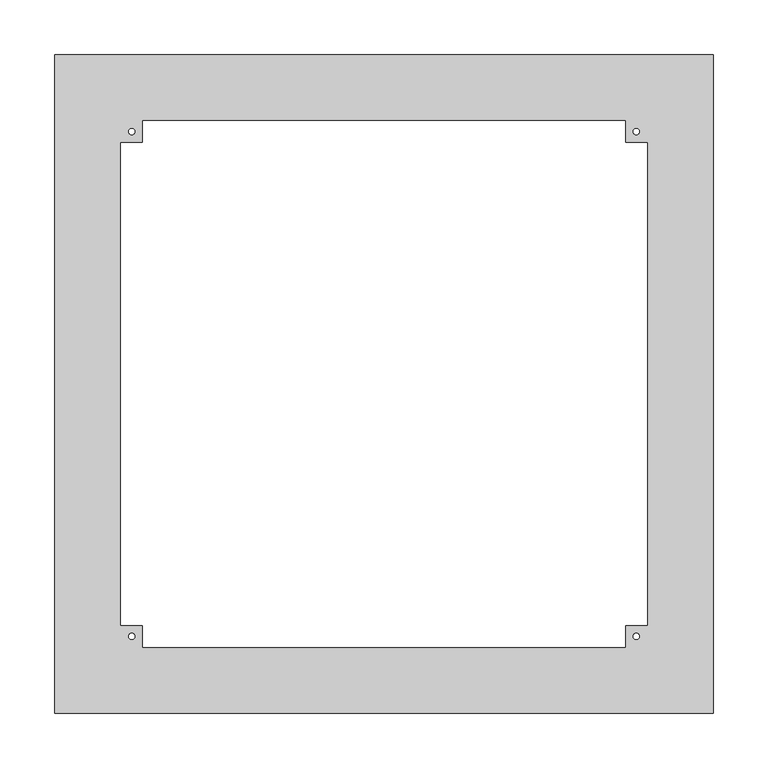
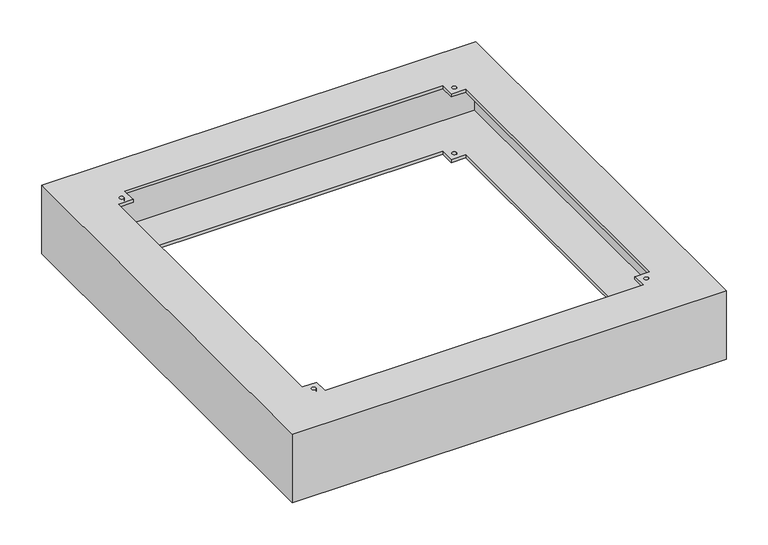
"""IFC4 building model written with IfcOpenShell, lengths in millimetres: furniture geometry, НВО_КНС_Сейсмоцоколь_DKC : Сейсмоцоколь 600x600x100мм."""

from ifc_helpers import new_model, si_unit, frame, origin, place, context, project, spatial, polyline, circle_curve, source, transform, mapped, element, save
from ifc_brep_helpers import plane_surface, revolved_surface, advanced_brep


def furniture_9b10bd77(model_context):
    return source(origin(), model_context, "Body", "AdvancedBrep", [
        advanced_brep(
        [(300.0, 300.0, 100.0), (-300.0, 300.0, 100.0), (-300.0, -300.0, 100.0), (300.0, -300.0, 100.0), (220.0, 240.0, 100.0), (220.0, 220.0, 100.0), (240.0, 220.0, 100.0), (240.0, -220.0, 100.0), (220.0, -220.0, 100.0), (220.0, -240.0, 100.0), (-220.0, -240.0, 100.0), (-220.0, -220.0, 100.0), (-240.0, -220.0, 100.0), (-240.0, 220.0, 100.0), (-220.0, 220.0, 100.0), (-220.0, 240.0, 100.0), (-232.8696247, 230.0, 100.0), (-227.1303753, 230.0, 100.0), (227.1303753, 230.0, 100.0), (232.8696247, 230.0, 100.0), (-232.8696247, -230.0, 100.0), (-227.1303753, -230.0, 100.0), (227.1303753, -230.0, 100.0), (232.8696247, -230.0, 100.0), (300.0, 300.0, 0.0), (300.0, -300.0, 0.0), (-300.0, -300.0, 0.0), (-300.0, 300.0, 0.0), (220.0, 240.0, 0.0), (-220.0, 240.0, 0.0), (-220.0, 220.0, 0.0), (-240.0, 220.0, 0.0), (-240.0, -220.0, 0.0), (-220.0, -220.0, 0.0), (-220.0, -240.0, 0.0), (220.0, -240.0, 0.0), (220.0, -220.0, 0.0), (240.0, -220.0, 0.0), (240.0, 220.0, 0.0), (220.0, 220.0, 0.0), (-232.8696247, 230.0, 0.0), (-227.1303753, 230.0, 0.0), (227.1303753, 230.0, 0.0), (232.8696247, 230.0, 0.0), (-232.8696247, -230.0, 0.0), (-227.1303753, -230.0, 0.0), (227.1303753, -230.0, 0.0), (232.8696247, -230.0, 0.0), (220.0, 240.0, 96.0), (220.0, 220.0, 96.0), (220.0, 220.0, 4.0), (220.0, 240.0, 4.0), (240.0, 220.0, 96.0), (240.0, 220.0, 4.0), (240.0, -220.0, 96.0), (240.0, -220.0, 4.0), (220.0, -220.0, 96.0), (220.0, -220.0, 4.0), (220.0, -240.0, 96.0), (220.0, -240.0, 4.0), (-220.0, -240.0, 96.0), (-220.0, -240.0, 4.0), (-220.0, -220.0, 96.0), (-220.0, -220.0, 4.0), (-240.0, -220.0, 96.0), (-240.0, -220.0, 4.0), (-240.0, 220.0, 96.0), (-240.0, 220.0, 4.0), (-220.0, 220.0, 96.0), (-220.0, 220.0, 4.0), (-220.0, 240.0, 96.0), (-220.0, 240.0, 4.0), (-232.8696247, 230.0, 96.0), (-227.1303753, 230.0, 96.0), (-227.1303753, 230.0, 4.0), (-232.8696247, 230.0, 4.0), (227.1303753, 230.0, 96.0), (232.8696247, 230.0, 96.0), (232.8696247, 230.0, 4.0), (227.1303753, 230.0, 4.0), (-232.8696247, -230.0, 96.0), (-227.1303753, -230.0, 96.0), (-227.1303753, -230.0, 4.0), (-232.8696247, -230.0, 4.0), (227.1303753, -230.0, 96.0), (232.8696247, -230.0, 96.0), (232.8696247, -230.0, 4.0), (227.1303753, -230.0, 4.0), (296.0, 296.0, 96.0), (296.0, -296.0, 96.0), (-296.0, -296.0, 96.0), (-296.0, 296.0, 96.0), (296.0, 296.0, 4.0), (-296.0, 296.0, 4.0), (-296.0, -296.0, 4.0), (296.0, -296.0, 4.0)],
        [
            (0, 1),
            (1, 2),
            (2, 3),
            (3, 0),
            (4, 5),
            (5, 6),
            (6, 7),
            (7, 8),
            (8, 9),
            (9, 10),
            (10, 11),
            (11, 12),
            (12, 13),
            (13, 14),
            (14, 15),
            (15, 4),
            (16, 17, circle_curve(frame((-230.0, 230.0, 100.0), z_axis=(0.0, 0.0, -1.0), x_axis=(1.0, 0.0, 0.0)), 2.8696247)),
            (17, 16, circle_curve(frame((-230.0, 230.0, 100.0), z_axis=(0.0, 0.0, -1.0), x_axis=(1.0, 0.0, 0.0)), 2.8696247)),
            (18, 19, circle_curve(frame((230.0, 230.0, 100.0), z_axis=(0.0, 0.0, -1.0), x_axis=(1.0, 0.0, 0.0)), 2.8696247)),
            (19, 18, circle_curve(frame((230.0, 230.0, 100.0), z_axis=(0.0, 0.0, -1.0), x_axis=(1.0, 0.0, 0.0)), 2.8696247)),
            (20, 21, circle_curve(frame((-230.0, -230.0, 100.0), z_axis=(0.0, 0.0, -1.0), x_axis=(1.0, 0.0, 0.0)), 2.8696247)),
            (21, 20, circle_curve(frame((-230.0, -230.0, 100.0), z_axis=(0.0, 0.0, -1.0), x_axis=(1.0, 0.0, 0.0)), 2.8696247)),
            (22, 23, circle_curve(frame((230.0, -230.0, 100.0), z_axis=(0.0, 0.0, -1.0), x_axis=(1.0, 0.0, 0.0)), 2.8696247)),
            (23, 22, circle_curve(frame((230.0, -230.0, 100.0), z_axis=(0.0, 0.0, -1.0), x_axis=(1.0, 0.0, 0.0)), 2.8696247)),
            (24, 25),
            (25, 26),
            (26, 27),
            (27, 24),
            (28, 29),
            (29, 30),
            (30, 31),
            (31, 32),
            (32, 33),
            (33, 34),
            (34, 35),
            (35, 36),
            (36, 37),
            (37, 38),
            (38, 39),
            (39, 28),
            (40, 41, circle_curve(frame((-230.0, 230.0, 0.0), z_axis=(0.0, 0.0, 1.0), x_axis=(1.0, 0.0, 0.0)), 2.8696247)),
            (41, 40, circle_curve(frame((-230.0, 230.0, 0.0), z_axis=(0.0, 0.0, 1.0), x_axis=(1.0, 0.0, 0.0)), 2.8696247)),
            (42, 43, circle_curve(frame((230.0, 230.0, 0.0), z_axis=(0.0, 0.0, 1.0), x_axis=(1.0, 0.0, 0.0)), 2.8696247)),
            (43, 42, circle_curve(frame((230.0, 230.0, 0.0), z_axis=(0.0, 0.0, 1.0), x_axis=(1.0, 0.0, 0.0)), 2.8696247)),
            (44, 45, circle_curve(frame((-230.0, -230.0, 0.0), z_axis=(0.0, 0.0, 1.0), x_axis=(1.0, 0.0, 0.0)), 2.8696247)),
            (45, 44, circle_curve(frame((-230.0, -230.0, 0.0), z_axis=(0.0, 0.0, 1.0), x_axis=(1.0, 0.0, 0.0)), 2.8696247)),
            (46, 47, circle_curve(frame((230.0, -230.0, 0.0), z_axis=(0.0, 0.0, 1.0), x_axis=(1.0, 0.0, 0.0)), 2.8696247)),
            (47, 46, circle_curve(frame((230.0, -230.0, 0.0), z_axis=(0.0, 0.0, 1.0), x_axis=(1.0, 0.0, 0.0)), 2.8696247)),
            (0, 24),
            (27, 1),
            (26, 2),
            (25, 3),
            (4, 48),
            (48, 49),
            (49, 5),
            (39, 50),
            (50, 51),
            (51, 28),
            (49, 52),
            (52, 6),
            (38, 53),
            (53, 50),
            (52, 54),
            (54, 7),
            (37, 55),
            (55, 53),
            (54, 56),
            (56, 8),
            (36, 57),
            (57, 55),
            (56, 58),
            (58, 9),
            (35, 59),
            (59, 57),
            (58, 60),
            (60, 10),
            (34, 61),
            (61, 59),
            (60, 62),
            (62, 11),
            (33, 63),
            (63, 61),
            (62, 64),
            (64, 12),
            (32, 65),
            (65, 63),
            (64, 66),
            (66, 13),
            (31, 67),
            (67, 65),
            (66, 68),
            (68, 14),
            (30, 69),
            (69, 67),
            (68, 70),
            (70, 15),
            (29, 71),
            (71, 69),
            (70, 48),
            (51, 71),
            (16, 72),
            (72, 73, circle_curve(frame((-230.0, 230.0, 96.0), z_axis=(0.0, 0.0, -1.0), x_axis=(1.0, 0.0, 0.0)), 2.8696247)),
            (73, 17),
            (41, 74),
            (74, 75, circle_curve(frame((-230.0, 230.0, 4.0), z_axis=(0.0, 0.0, 1.0), x_axis=(1.0, 0.0, 0.0)), 2.8696247)),
            (75, 40),
            (73, 72, circle_curve(frame((-230.0, 230.0, 96.0), z_axis=(0.0, 0.0, -1.0), x_axis=(1.0, 0.0, 0.0)), 2.8696247)),
            (75, 74, circle_curve(frame((-230.0, 230.0, 4.0), z_axis=(0.0, 0.0, 1.0), x_axis=(1.0, 0.0, 0.0)), 2.8696247)),
            (18, 76),
            (76, 77, circle_curve(frame((230.0, 230.0, 96.0), z_axis=(0.0, 0.0, -1.0), x_axis=(1.0, 0.0, 0.0)), 2.8696247)),
            (77, 19),
            (43, 78),
            (78, 79, circle_curve(frame((230.0, 230.0, 4.0), z_axis=(0.0, 0.0, 1.0), x_axis=(1.0, 0.0, 0.0)), 2.8696247)),
            (79, 42),
            (77, 76, circle_curve(frame((230.0, 230.0, 96.0), z_axis=(0.0, 0.0, -1.0), x_axis=(1.0, 0.0, 0.0)), 2.8696247)),
            (79, 78, circle_curve(frame((230.0, 230.0, 4.0), z_axis=(0.0, 0.0, 1.0), x_axis=(1.0, 0.0, 0.0)), 2.8696247)),
            (20, 80),
            (80, 81, circle_curve(frame((-230.0, -230.0, 96.0), z_axis=(0.0, 0.0, -1.0), x_axis=(1.0, 0.0, 0.0)), 2.8696247)),
            (81, 21),
            (45, 82),
            (82, 83, circle_curve(frame((-230.0, -230.0, 4.0), z_axis=(0.0, 0.0, 1.0), x_axis=(1.0, 0.0, 0.0)), 2.8696247)),
            (83, 44),
            (81, 80, circle_curve(frame((-230.0, -230.0, 96.0), z_axis=(0.0, 0.0, -1.0), x_axis=(1.0, 0.0, 0.0)), 2.8696247)),
            (83, 82, circle_curve(frame((-230.0, -230.0, 4.0), z_axis=(0.0, 0.0, 1.0), x_axis=(1.0, 0.0, 0.0)), 2.8696247)),
            (22, 84),
            (84, 85, circle_curve(frame((230.0, -230.0, 96.0), z_axis=(0.0, 0.0, -1.0), x_axis=(1.0, 0.0, 0.0)), 2.8696247)),
            (85, 23),
            (47, 86),
            (86, 87, circle_curve(frame((230.0, -230.0, 4.0), z_axis=(0.0, 0.0, 1.0), x_axis=(1.0, 0.0, 0.0)), 2.8696247)),
            (87, 46),
            (85, 84, circle_curve(frame((230.0, -230.0, 96.0), z_axis=(0.0, 0.0, -1.0), x_axis=(1.0, 0.0, 0.0)), 2.8696247)),
            (87, 86, circle_curve(frame((230.0, -230.0, 4.0), z_axis=(0.0, 0.0, 1.0), x_axis=(1.0, 0.0, 0.0)), 2.8696247)),
            (88, 89),
            (89, 90),
            (90, 91),
            (91, 88),
            (92, 93),
            (93, 94),
            (94, 95),
            (95, 92),
            (91, 93),
            (92, 88),
            (90, 94),
            (89, 95),
        ],
        [
            plane_surface(frame((-300.0, 300.0, 100.0), z_axis=(0.0, 0.0, 1.0), x_axis=(-1.0, 0.0, 0.0))),
            plane_surface(frame((-300.0, 300.0, 0.0), z_axis=(0.0, 0.0, -1.0), x_axis=(1.0, 0.0, 0.0))),
            plane_surface(frame((300.0, 300.0, 100.0), z_axis=(0.0, 1.0, 0.0), x_axis=(0.0, 0.0, -1.0))),
            plane_surface(frame((-300.0, 300.0, 100.0), z_axis=(-1.0, 0.0, 0.0), x_axis=(0.0, 0.0, -1.0))),
            plane_surface(frame((-300.0, -300.0, 100.0), z_axis=(0.0, -1.0, 0.0), x_axis=(0.0, 0.0, -1.0))),
            plane_surface(frame((300.0, -300.0, 100.0), z_axis=(1.0, 0.0, 0.0), x_axis=(0.0, 0.0, -1.0))),
            plane_surface(frame((220.0, 240.0, 100.0), z_axis=(-1.0, 0.0, 0.0), x_axis=(0.0, 0.0, -1.0))),
            plane_surface(frame((220.0, 220.0, 100.0), z_axis=(0.0, -1.0, 0.0), x_axis=(0.0, 0.0, -1.0))),
            plane_surface(frame((240.0, 220.0, 100.0), z_axis=(-1.0, 0.0, 0.0), x_axis=(0.0, 0.0, -1.0))),
            plane_surface(frame((240.0, -220.0, 100.0), z_axis=(0.0, 1.0, 0.0), x_axis=(0.0, 0.0, -1.0))),
            plane_surface(frame((220.0, -220.0, 100.0), z_axis=(-1.0, 0.0, 0.0), x_axis=(0.0, 0.0, -1.0))),
            plane_surface(frame((220.0, -240.0, 100.0), z_axis=(0.0, 1.0, 0.0), x_axis=(0.0, 0.0, -1.0))),
            plane_surface(frame((-220.0, -240.0, 100.0), z_axis=(1.0, 0.0, 0.0), x_axis=(0.0, 0.0, -1.0))),
            plane_surface(frame((-220.0, -220.0, 100.0), z_axis=(0.0, 1.0, 0.0), x_axis=(0.0, 0.0, -1.0))),
            plane_surface(frame((-240.0, -220.0, 100.0), z_axis=(1.0, 0.0, 0.0), x_axis=(0.0, 0.0, -1.0))),
            plane_surface(frame((-240.0, 220.0, 100.0), z_axis=(0.0, -1.0, 0.0), x_axis=(0.0, 0.0, -1.0))),
            plane_surface(frame((-220.0, 220.0, 100.0), z_axis=(1.0, 0.0, 0.0), x_axis=(0.0, 0.0, -1.0))),
            plane_surface(frame((-220.0, 240.0, 100.0), z_axis=(0.0, -1.0, 0.0), x_axis=(0.0, 0.0, -1.0))),
            revolved_surface(polyline([(-227.1303753, 230.0, 96.0), (-227.1303753, 230.0, 100.0)]), (-230.0, 230.0, 0.0), (0.0, 0.0, -1.0)),
            revolved_surface(polyline([(-227.1303753, 230.0, 0.0), (-227.1303753, 230.0, 4.0)]), (-230.0, 230.0, 0.0), (0.0, 0.0, -1.0)),
            revolved_surface(polyline([(232.8696247, 230.0, 96.0), (232.8696247, 230.0, 100.0)]), (230.0, 230.0, 0.0), (0.0, 0.0, -1.0)),
            revolved_surface(polyline([(232.8696247, 230.0, 0.0), (232.8696247, 230.0, 4.0)]), (230.0, 230.0, 0.0), (0.0, 0.0, -1.0)),
            revolved_surface(polyline([(-227.1303753, -230.0, 96.0), (-227.1303753, -230.0, 100.0)]), (-230.0, -230.0, 0.0), (0.0, 0.0, -1.0)),
            revolved_surface(polyline([(-227.1303753, -230.0, 0.0), (-227.1303753, -230.0, 4.0)]), (-230.0, -230.0, 0.0), (0.0, 0.0, -1.0)),
            revolved_surface(polyline([(232.8696247, -230.0, 96.0), (232.8696247, -230.0, 100.0)]), (230.0, -230.0, 0.0), (0.0, 0.0, -1.0)),
            revolved_surface(polyline([(232.8696247, -230.0, 0.0), (232.8696247, -230.0, 4.0)]), (230.0, -230.0, 0.0), (0.0, 0.0, -1.0)),
            plane_surface(frame((-296.0, 296.0, 96.0), z_axis=(0.0, 0.0, -1.0), x_axis=(-1.0, 0.0, 0.0))),
            plane_surface(frame((-296.0, 296.0, 4.0), z_axis=(0.0, 0.0, 1.0), x_axis=(1.0, 0.0, 0.0))),
            plane_surface(frame((296.0, 296.0, 96.0), z_axis=(0.0, -1.0, 0.0), x_axis=(0.0, 0.0, -1.0))),
            plane_surface(frame((-296.0, 296.0, 96.0), z_axis=(1.0, 0.0, 0.0), x_axis=(0.0, 0.0, -1.0))),
            plane_surface(frame((-296.0, -296.0, 96.0), z_axis=(0.0, 1.0, 0.0), x_axis=(0.0, 0.0, -1.0))),
            plane_surface(frame((296.0, -296.0, 96.0), z_axis=(-1.0, 0.0, 0.0), x_axis=(0.0, 0.0, -1.0))),
        ],
        [
            (0, [[1, 2, 3, 4], [5, 6, 7, 8, 9, 10, 11, 12, 13, 14, 15, 16], [17, 18], [19, 20], [21, 22], [23, 24]]),
            (1, [[25, 26, 27, 28], [29, 30, 31, 32, 33, 34, 35, 36, 37, 38, 39, 40], [41, 42], [43, 44], [45, 46], [47, 48]]),
            (2, [[-1, 49, -28, 50]]),
            (3, [[-2, -50, -27, 51]]),
            (4, [[-3, -51, -26, 52]]),
            (5, [[-4, -52, -25, -49]]),
            (6, [[-5, 53, 54, 55]]),
            (6, [[-40, 56, 57, 58]]),
            (7, [[-6, -55, 59, 60]]),
            (7, [[-39, 61, 62, -56]]),
            (8, [[-7, -60, 63, 64]]),
            (8, [[-38, 65, 66, -61]]),
            (9, [[-8, -64, 67, 68]]),
            (9, [[-37, 69, 70, -65]]),
            (10, [[-9, -68, 71, 72]]),
            (10, [[-36, 73, 74, -69]]),
            (11, [[-10, -72, 75, 76]]),
            (11, [[-35, 77, 78, -73]]),
            (12, [[-11, -76, 79, 80]]),
            (12, [[-34, 81, 82, -77]]),
            (13, [[-12, -80, 83, 84]]),
            (13, [[-33, 85, 86, -81]]),
            (14, [[-13, -84, 87, 88]]),
            (14, [[-32, 89, 90, -85]]),
            (15, [[-14, -88, 91, 92]]),
            (15, [[-31, 93, 94, -89]]),
            (16, [[-15, -92, 95, 96]]),
            (16, [[-30, 97, 98, -93]]),
            (17, [[-16, -96, 99, -53]]),
            (17, [[-29, -58, 100, -97]]),
            (18, [[-17, 101, 102, 103]]),
            (19, [[-42, 104, 105, 106]]),
            (18, [[-18, -103, 107, -101]]),
            (19, [[-41, -106, 108, -104]]),
            (20, [[-19, 109, 110, 111]]),
            (21, [[-44, 112, 113, 114]]),
            (20, [[-20, -111, 115, -109]]),
            (21, [[-43, -114, 116, -112]]),
            (22, [[-21, 117, 118, 119]]),
            (23, [[-46, 120, 121, 122]]),
            (22, [[-22, -119, 123, -117]]),
            (23, [[-45, -122, 124, -120]]),
            (24, [[-23, 125, 126, 127]]),
            (25, [[-48, 128, 129, 130]]),
            (24, [[-24, -127, 131, -125]]),
            (25, [[-47, -130, 132, -128]]),
            (26, [[133, 134, 135, 136], [-54, -99, -95, -91, -87, -83, -79, -75, -71, -67, -63, -59], [-102, -107], [-110, -115], [-118, -123], [-126, -131]]),
            (27, [[137, 138, 139, 140], [-57, -62, -66, -70, -74, -78, -82, -86, -90, -94, -98, -100], [-105, -108], [-113, -116], [-121, -124], [-129, -132]]),
            (28, [[-136, 141, -137, 142]]),
            (29, [[-135, 143, -138, -141]]),
            (30, [[-134, 144, -139, -143]]),
            (31, [[-133, -142, -140, -144]]),
        ],
    ),
    ])


if __name__ == "__main__":
    model = new_model("IFC4")
    model_context = context("Model", 3, world=origin())
    ifc_project = project(units=[si_unit("LENGTHUNIT", "METRE", prefix="MILLI")], contexts=[model_context])
    site = spatial("IfcSite", under=ifc_project)
    building = spatial("IfcBuilding", under=site)
    placement = place(None, origin())
    furniture_shape = furniture_9b10bd77(model_context)
    element("IfcFurniture", 1, ObjectType="НВО_КНС_Сейсмоцоколь_DKC : Сейсмоцоколь 600x600x100мм", at=placement, inside=building, context=model_context, shape_type="MappedRepresentation", body=[
        mapped(furniture_shape, transform((0.0, 0.0, 0.0), x_axis=(1.0, 0.0, 0.0), y_axis=(0.0, 1.0, 0.0), z_axis=(0.0, 0.0, 1.0))),
    ])
    save(model, "model.ifc")
